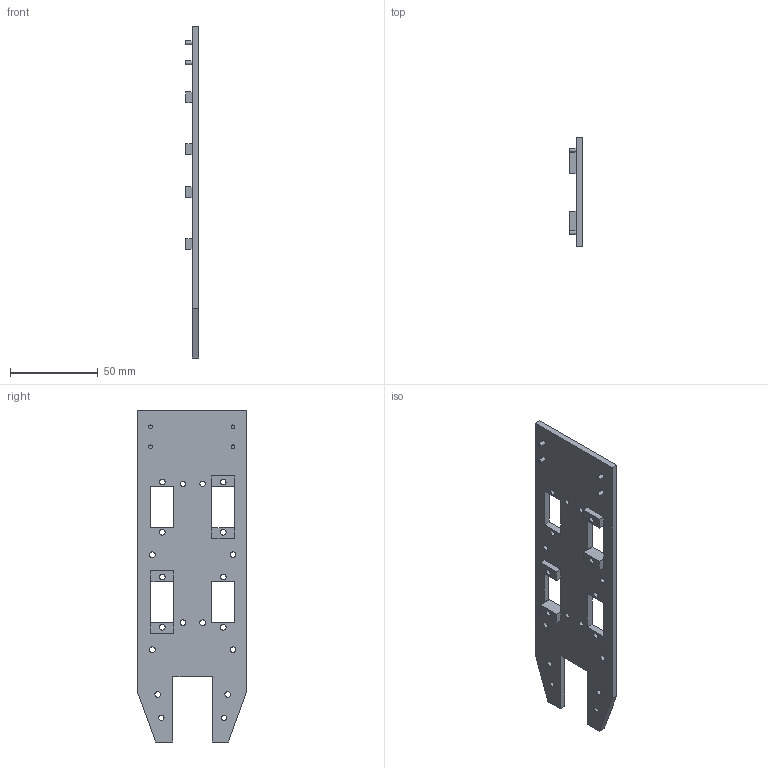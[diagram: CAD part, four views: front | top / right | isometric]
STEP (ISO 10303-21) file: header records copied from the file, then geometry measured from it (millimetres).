
FILE_DESCRIPTION(/* description */ ('STEP AP242 Edition 2','CAx-IF Rec.Pracs.---Representation and Presentation of Product Manufacturing Information (PMI)---4.0---2014-10-13','CAx-IF Rec.Pracs.---3D Tessellated Geometry---0.4---2014-09-14','2;1','CAx-IF Rec.Pracs.---User Defined Attributes---1.5---2016-08-15'),/* implementation_level */ '2;1');
FILE_NAME(/* name */ 'Main Assembly - servo board',/* time_stamp */ '2026-06-22T17:37:59Z',/* author */ (''),/* organization */ (''),/* preprocessor_version */ 'ST-DEVELOPER v20',/* originating_system */ 'ONSHAPE BY PTC INC, 1.216',/* authorisation */ ' ');
FILE_SCHEMA (('AP242_MANAGED_MODEL_BASED_3D_ENGINEERING_MIM_LF { 1 0 10303 442 3 1 4 }'));
Length unit declared in the file: metre
Products named in the file (1): servo board
Bounding box: 7.62 x 62.18 x 189.27 mm (x, y, z)
Volume: 36052.4 mm3; surface area: 23264.2 mm2
Topology: 1 solids, 1 shells, 92 faces, 256 edges, 172 vertices
Faces by surface type: plane 68, cylinder 24
Full cylindrical faces by diameter (mm): 2.116 x4, 3.036 x1, 3.049 x1, 3.052 x1, 3.054 x1, 3.244 x2, 3.251 x1, 3.258 x1, 3.259 x3, 3.262 x1, 3.264 x1, 3.265 x1, 3.266 x1, 3.271 x3, 3.272 x1, 3.273 x1
Entity records: 2902 total; most frequent: CARTESIAN_POINT 489, DIRECTION 462, ORIENTED_EDGE 456, EDGE_CURVE 228, LINE 180, VECTOR 180, EDGE_LOOP 170, FACE_BOUND 170
